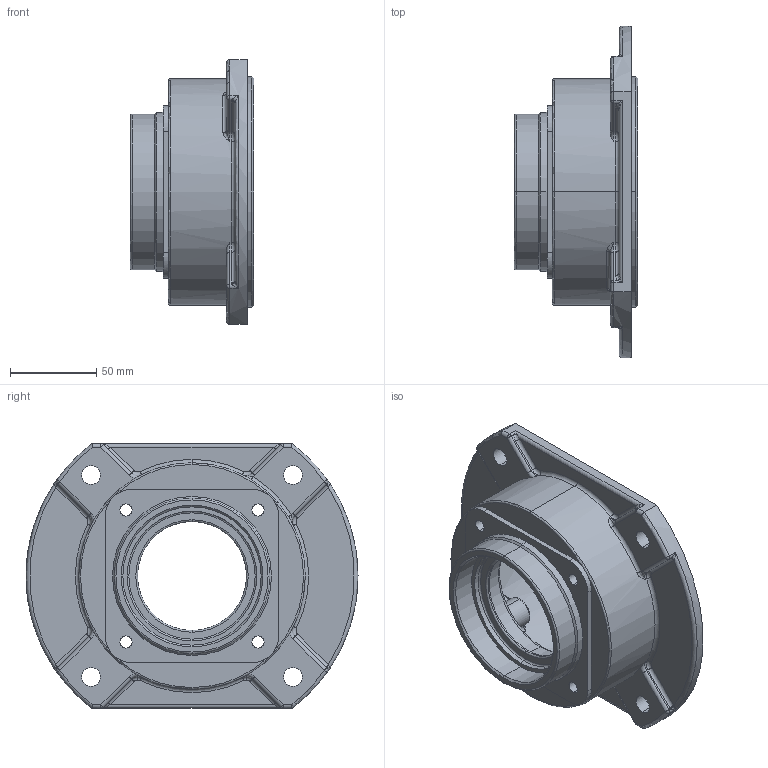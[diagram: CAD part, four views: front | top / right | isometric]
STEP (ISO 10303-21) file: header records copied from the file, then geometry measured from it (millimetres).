
FILE_DESCRIPTION (( 'STEP AP203' ), '1' );
FILE_NAME ('KFYM0531921S.STEP', '2020-05-05T07:36:42', ( 'Microsoft' ), ( 'Microsoft' ), 'SwSTEP 2.0', 'SolidWorks 2012', '' );
FILE_SCHEMA (( 'CONFIG_CONTROL_DESIGN' ));
Length unit declared in the file: millimetre
Products named in the file (1): KFYM0531921S
Bounding box: 71.39 x 192.02 x 153.16 mm (x, y, z)
Volume: 334231.9 mm3; surface area: 102967.1 mm2
Topology: 1 solids, 1 shells, 352 faces, 853 edges, 494 vertices
Faces by surface type: cylinder 104, torus 97, plane 53, bspline 50, cone 40, sphere 8
Entity records: 12643 total; most frequent: CARTESIAN_POINT 4536, DIRECTION 1810, ORIENTED_EDGE 1654, EDGE_CURVE 827, AXIS2_PLACEMENT_3D 796, CIRCLE 493, VERTEX_POINT 490, EDGE_LOOP 383
